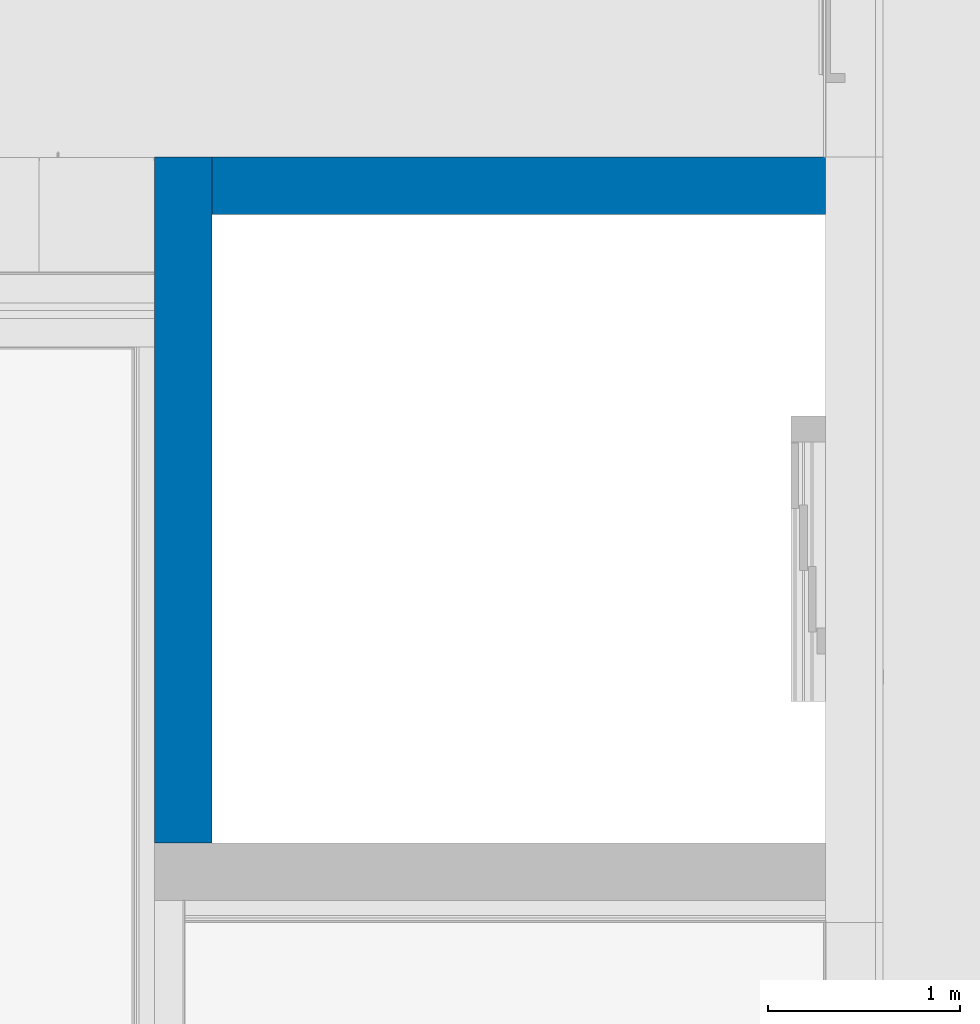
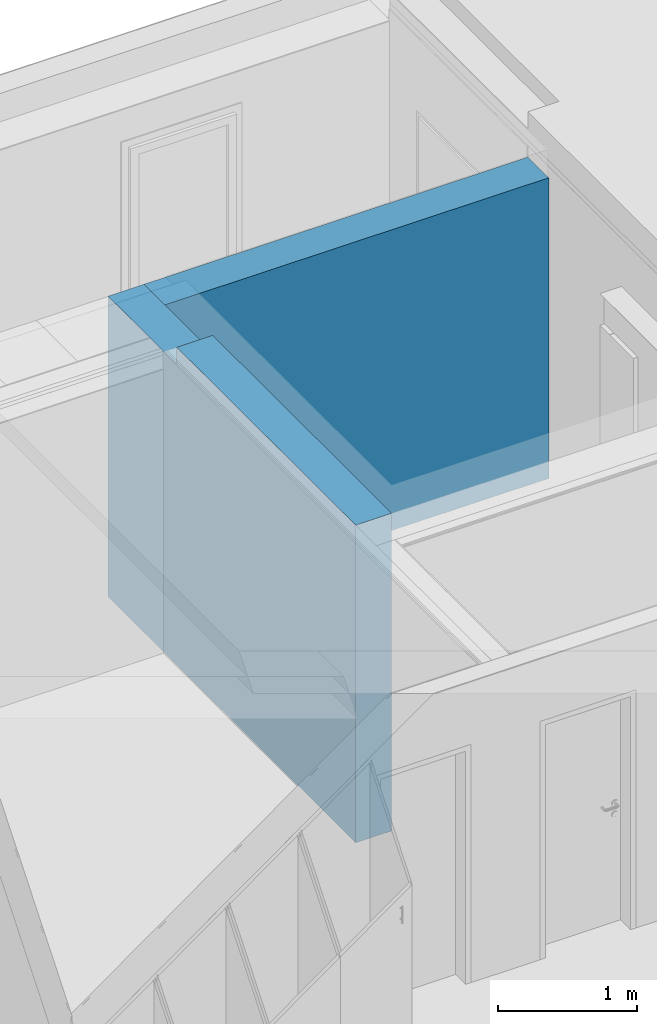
# One storey, part 2 of 34: 2 walls.
"""IFC4 building model written with IfcOpenShell, lengths in millimetres."""

from ifc_helpers import new_model, entity, si_unit, converted_unit, derived_unit, direction, frame, origin_with_axes, place, context, subcontext, project, spatial, polygons, material, constituent, constituent_set, type_object, element, save


model = new_model("IFC4")

# Units and contexts
model_context = context("Model", 3, precision=0.01, world=origin_with_axes(), true_north=direction((0.0, 1.0)))
body_context = subcontext(model_context, "Body", "Model", "MODEL_VIEW")
ifc_project = project(units=[si_unit("LENGTHUNIT", "METRE", prefix="MILLI"), si_unit("AREAUNIT", "SQUARE_METRE"), si_unit("VOLUMEUNIT", "CUBIC_METRE"), converted_unit("PLANEANGLEUNIT", "DEGREE", entity("IfcPlaneAngleMeasure", 0.0174532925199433), si_unit("PLANEANGLEUNIT", "RADIAN"), dimensions=[0, 0, 0, 0, 0, 0, 0]), converted_unit("TIMEUNIT", "Year", entity("IfcTimeMeasure", 31557600.0), si_unit("TIMEUNIT", "SECOND"), dimensions=[0, 0, 1, 0, 0, 0, 0]), si_unit("MASSUNIT", "GRAM", prefix="KILO"), si_unit("THERMODYNAMICTEMPERATUREUNIT", "DEGREE_CELSIUS"), si_unit("LUMINOUSINTENSITYUNIT", "LUMEN"), si_unit("ENERGYUNIT", "JOULE", prefix="MEGA"), derived_unit("THERMALCONDUCTANCEUNIT", [(si_unit("POWERUNIT", "WATT"), 1), (si_unit("LENGTHUNIT", "METRE"), -1), (si_unit("THERMODYNAMICTEMPERATUREUNIT", "KELVIN"), -1)]), derived_unit("SPECIFICHEATCAPACITYUNIT", [(si_unit("ENERGYUNIT", "JOULE"), 1), (si_unit("MASSUNIT", "GRAM", prefix="KILO"), -1), (si_unit("THERMODYNAMICTEMPERATUREUNIT", "KELVIN"), -1)]), derived_unit("MASSDENSITYUNIT", [(si_unit("MASSUNIT", "GRAM", prefix="KILO"), 1), (si_unit("VOLUMEUNIT", "CUBIC_METRE"), -1)])], contexts=[model_context])

# Site, building, storey
site_placement = place(None, origin_with_axes())
site = spatial("IfcSite", under=ifc_project, at=site_placement, Name="Gelände", CompositionType="ELEMENT")
building_placement = place(site_placement, origin_with_axes())
building = spatial("IfcBuilding", under=site, at=building_placement, Name="Gebäude", CompositionType="ELEMENT")
storey_placement = place(building_placement, frame((0.0, 0.0, 2900.0), z_axis=(0.0, 0.0, 1.0), x_axis=(1.0, 0.0, 0.0)))
storey = spatial("IfcBuildingStorey", under=building, at=storey_placement, Name="1.OG", CompositionType="ELEMENT", Elevation=2900.0)

# Walls
ifc_material = material(Name="Beton bewehrt")
ifc_constituent_1 = constituent(ifc_material, Name="Beton bewehrt")
ifc_constituent_set_1 = constituent_set(constituents=[ifc_constituent_1], Name="Innenwand Typ 08")
wall_type = type_object("IfcWallType", Name="Innenwand Typ 08 300", PredefinedType="NOTDEFINED")
wall_1_placement = place(storey_placement, frame((11928.99744477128, 35447.59728131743, 0.0), z_axis=(0.0, 0.0, 1.0), x_axis=(1.0, 0.0, 0.0)))
element("IfcWall", 1, at=wall_1_placement, inside=storey, type_object=wall_type, material=ifc_constituent_set_1, Name="Wand-014", PredefinedType="NOTDEFINED", context=body_context, shape_type="Tessellation", body=[
    polygons([(300.0000000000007, -299.9999999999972, 2649.999999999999), (3500.0, -299.9999999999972, 2649.999999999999), (3500.0, 0.0, 2649.999999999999), (300.0000000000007, 0.0, 2649.999999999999), (300.0000000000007, -299.9999999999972, 0.0), (3500.0, -299.9999999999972, 0.0), (3500.0, 0.0, 0.0), (300.0000000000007, 0.0, 0.0)], [[[1, 2, 3, 4]], [[5, 6, 2, 1]], [[3, 2, 6, 7]], [[4, 3, 7, 8]], [[5, 1, 4, 8]], [[8, 7, 6, 5]]], closed=True),
])
ifc_constituent_2 = constituent(ifc_material, Name="Beton bewehrt")
ifc_constituent_set_2 = constituent_set(constituents=[ifc_constituent_2], Name="Innenwand Typ 08")
wall_2_placement = place(storey_placement, frame((11928.99744477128, 35447.59728131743, 0.0), z_axis=(0.0, 0.0, 1.0), x_axis=(0.0, -1.0, 0.0)))
element("IfcWall", 2, at=wall_2_placement, inside=storey, type_object=wall_type, material=ifc_constituent_set_2, Name="Wand-014", PredefinedType="NOTDEFINED", context=body_context, shape_type="Tessellation", body=[
    polygons([(0.0, 0.0, 0.0), (0.0, 0.0, 2649.999948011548), (0.0, 300.0000000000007, 2649.999948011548), (0.0, 300.0000000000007, 0.0), (990.0000000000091, 0.0, 2649.999948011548), (3574.999999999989, 0.0, 0.0), (3574.999999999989, 0.0, 2799.999948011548), (990.0000000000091, 0.0, 2799.999948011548), (990.0000000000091, 300.0000000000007, 2649.999948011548), (299.9999999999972, 300.0000000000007, 2649.999948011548), (990.0000000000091, 300.0000000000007, 2799.999948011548), (3574.999999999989, 299.9999999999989, 2799.999948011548), (3574.999999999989, 299.9999999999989, 0.0)], [[[1, 2, 3, 4]], [[5, 2, 1, 6, 7, 8]], [[9, 10, 3, 2, 5]], [[4, 3, 10, 9, 11, 12, 13]], [[13, 6, 1, 4]], [[6, 13, 12, 7]], [[12, 11, 8, 7]], [[5, 8, 11, 9]]], closed=True),
])

save(model, "model.ifc")
